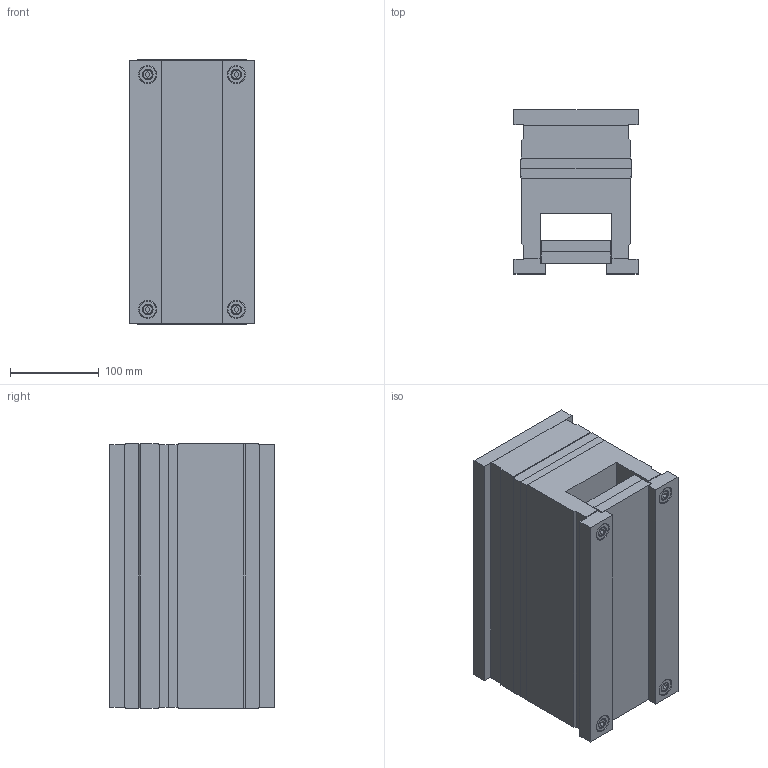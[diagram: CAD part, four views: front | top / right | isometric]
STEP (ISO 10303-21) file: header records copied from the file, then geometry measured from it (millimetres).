
FILE_DESCRIPTION (( 'STEP AP214' ), '1' );
FILE_NAME ('1255.STEP', '2002-07-10T07:48:56', ( 'Simcha Kilim' ), ( 'K. Plastics Engineering' ), 'SwSTEP 2.0', 'SolidWorks 2002025', '' );
FILE_SCHEMA (( 'AUTOMOTIVE_DESIGN' ));
Length unit declared in the file: millimetre
Products named in the file (12): 1255; ALMO (guide bush)_Ø11; ALMO (ejector return plate)_1255; ALMO (guide pin)_Ø10; ALMO (guide pin)_Ø11; ALMO (ejector half)_1255; ALMO (ejector plate)_1255; ALMO (guide bush)_Ø10; ALMO (hot half)_1255; ALMO (key plate)_Ø10; ALMO (screw)_M6x80; ALMO (screw)_M6x50
Assembly tree (28 placements, depth 2):
  1255
    ALMO (key plate)_Ø10  x8
    ALMO (screw)_M6x80  x4
    ALMO (ejector return plate)_1255
    ALMO (ejector plate)_1255
    ALMO (guide bush)_Ø10  x3
    ALMO (hot half)_1255
    ALMO (screw)_M6x50  x4
    ALMO (guide pin)_Ø10  x3
    ALMO (ejector half)_1255
    ALMO (guide bush)_Ø11
    ALMO (guide pin)_Ø11
Bounding box: 140 x 185.5 x 298 mm (x, y, z)
Volume: 5859955.5 mm3; surface area: 556996.8 mm2
Topology: 28 solids, 28 shells, 706 faces, 1496 edges, 924 vertices
Faces by surface type: cylinder 260, plane 254, cone 192
Entity records: 10477 total; most frequent: DIRECTION 1914, CARTESIAN_POINT 1683, ORIENTED_EDGE 1584, EDGE_CURVE 792, AXIS2_PLACEMENT_3D 729, VERTEX_POINT 498, LINE 456, VECTOR 456
